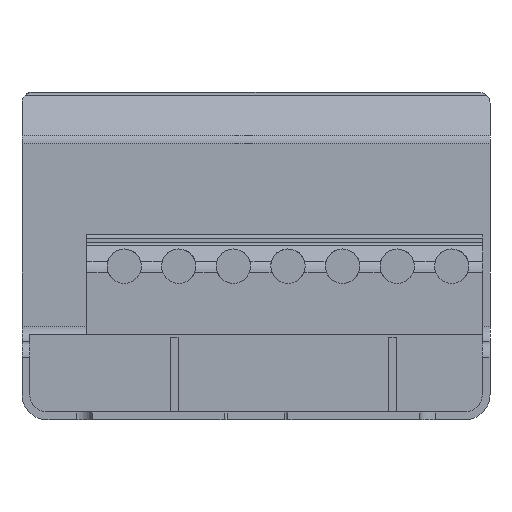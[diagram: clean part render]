
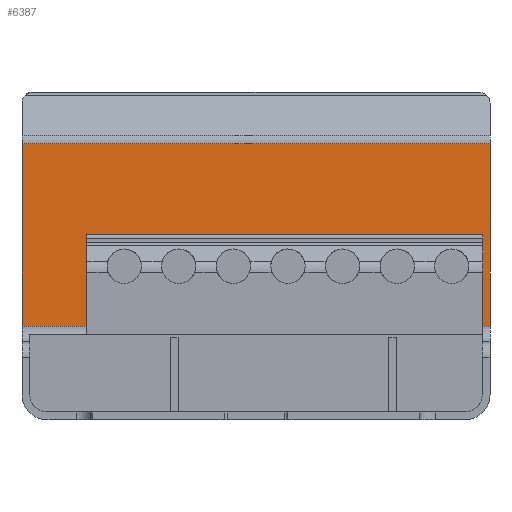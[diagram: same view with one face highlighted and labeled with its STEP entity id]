
A CAD part, front view. The second image highlights one B-rep face of the part: STEP entity #6387.
In plain terms, the highlighted planar face has unit normal (0, -1, 0).
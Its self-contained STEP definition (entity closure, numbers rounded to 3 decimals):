
#2064=DIRECTION('',(1.,0.,0.));
#2065=VECTOR('',#2064,30.);
#2066=CARTESIAN_POINT('',(-15.,-150.7,6.));
#2067=LINE('',#2066,#2065);
#3138=DIRECTION('',(0.,0.,1.));
#3139=VECTOR('',#3138,11.71);
#3140=CARTESIAN_POINT('',(-15.,-150.7,6.));
#3141=LINE('',#3140,#3139);
#3145=DIRECTION('',(1.,0.,0.));
#3146=VECTOR('',#3145,30.);
#3147=CARTESIAN_POINT('',(-15.,-150.7,17.71));
#3148=LINE('',#3147,#3146);
#3152=DIRECTION('',(0.,0.,-1.));
#3153=VECTOR('',#3152,11.71);
#3154=CARTESIAN_POINT('',(15.,-150.7,17.71));
#3155=LINE('',#3154,#3153);
#4173=CARTESIAN_POINT('',(-15.,-150.7,17.71));
#4174=CARTESIAN_POINT('',(15.,-150.7,17.71));
#4175=VERTEX_POINT('',#4173);
#4176=VERTEX_POINT('',#4174);
#4273=CARTESIAN_POINT('',(15.,-150.7,6.));
#4274=VERTEX_POINT('',#4273);
#4275=CARTESIAN_POINT('',(-15.,-150.7,6.));
#4276=VERTEX_POINT('',#4275);
#6375=CARTESIAN_POINT('',(-15.,-150.7,5.45));
#6376=DIRECTION('',(0.,-1.,0.));
#6377=DIRECTION('',(0.,0.,1.));
#6378=AXIS2_PLACEMENT_3D('',#6375,#6376,#6377);
#6379=PLANE('',#6378);
#6380=ORIENTED_EDGE('',*,*,#5655,.F.);
#6381=ORIENTED_EDGE('',*,*,#4310,.T.);
#6383=ORIENTED_EDGE('',*,*,#6382,.T.);
#6384=ORIENTED_EDGE('',*,*,#4490,.T.);
#6385=EDGE_LOOP('',(#6380,#6381,#6383,#6384));
#6386=FACE_OUTER_BOUND('',#6385,.F.);
#4310=EDGE_CURVE('',#4276,#4175,#3141,.T.);
#4490=EDGE_CURVE('',#4176,#4274,#3155,.T.);
#5655=EDGE_CURVE('',#4276,#4274,#2067,.T.);
#6382=EDGE_CURVE('',#4175,#4176,#3148,.T.);
#6387=ADVANCED_FACE('',(#6386),#6379,.T.);
